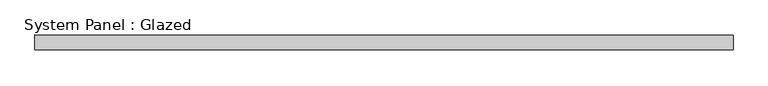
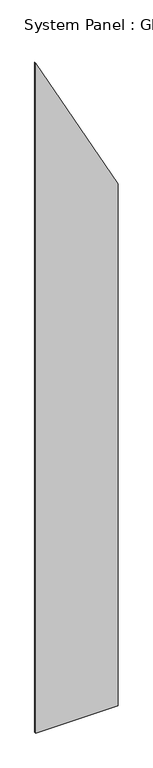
"""IFC4 building model written with IfcOpenShell, lengths in millimetres: plate geometry, System Panel : Glazed."""

from ifc_helpers import new_model, si_unit, frame, origin, place, context, project, spatial, polyline, outline, extrude, source, transform, mapped, element, save


def system_panel_glazed_527d9985(model_context):
    return source(origin(), model_context, "Body", "SweptSolid", [
        extrude(outline(polyline([(0.0, -590.4881511), (0.0, 590.4881511), (7907.0508782, 590.4881511), (10150.0, -590.4881511), (0.0, -590.4881511)])), frame((0.0, -12.5, 0.0), z_axis=(0.0, 1.0, 0.0), x_axis=(0.0, 0.0, 1.0)), (0.0, 0.0, 1.0), 25.0),
    ])


if __name__ == "__main__":
    model = new_model("IFC4")
    model_context = context("Model", 3, world=origin())
    ifc_project = project(units=[si_unit("LENGTHUNIT", "METRE", prefix="MILLI")], contexts=[model_context])
    site = spatial("IfcSite", under=ifc_project)
    building = spatial("IfcBuilding", under=site)
    placement = place(None, origin())
    system_panel_glazed_shape = system_panel_glazed_527d9985(model_context)
    element("IfcPlate", 1, ObjectType="System Panel : Glazed", at=placement, inside=building, context=model_context, shape_type="MappedRepresentation", body=[
        mapped(system_panel_glazed_shape, transform((0.0, 0.0, 0.0), x_axis=(1.0, 0.0, 0.0), y_axis=(0.0, 1.0, 0.0), z_axis=(0.0, 0.0, 1.0))),
    ])
    save(model, "model.ifc")
